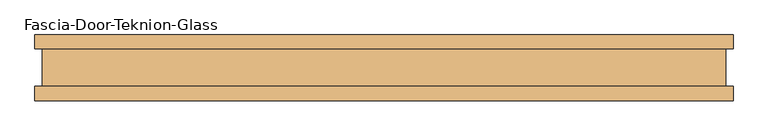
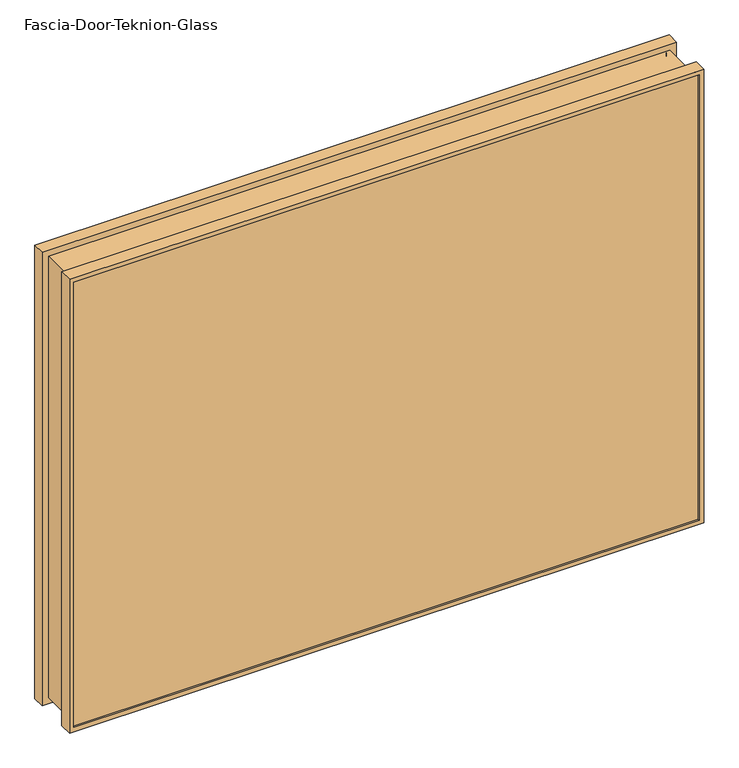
"""IFC4 building model written with IfcOpenShell, lengths in millimetres: door geometry, Fascia-Door-Teknion-Glass : FPGD."""

from ifc_helpers import new_model, si_unit, frame, origin, place, context, project, spatial, polyline, ellipse_curve, outline, extrude, source, transform, mapped, element, save
from ifc_brep_helpers import plane_surface, cylinder_surface, advanced_brep


def fascia_door_teknion_glass_85182ea5(model_context):
    return source(origin(), model_context, "Body", "SolidModel", [
        advanced_brep(
        [(530.2351562, -50.0558594, 804.545), (530.2351562, -50.0558594, 3.175), (530.2351562, -28.2698798, 3.175), (530.2351562, -28.2698798, 804.545), (522.7999484, -47.1322551, 797.1097922), (522.7999484, -47.1322551, 10.6102078), (522.7999484, -50.0558594, 10.6102078), (522.7999484, -50.0558594, 797.1097922), (528.0826299, -41.1791301, 802.3924737), (528.0826299, -41.1791301, 5.3275263), (528.0826299, -47.1322551, 5.3275263), (528.0826299, -47.1322551, 802.3924737), (522.2777407, 40.9277344, 796.5875845), (522.2777407, 40.9277344, 11.1324155), (522.2777407, -41.1791301, 11.1324155), (522.2777407, -41.1791301, 796.5875845), (528.0826299, 46.8808594, 802.3924737), (528.0826299, 46.8808594, 5.3275263), (528.0826299, 40.9277344, 5.3275263), (528.0826299, 40.9277344, 802.3924737), (522.7999484, 50.0558594, 797.1097922), (522.7999484, 50.0558594, 10.6102078), (522.7999484, 46.8808594, 10.6102078), (522.7999484, 46.8808594, 797.1097922), (530.2351562, 28.8801202, 804.545), (530.2351562, 28.8801202, 3.175), (530.2351562, 50.0558594, 3.175), (530.2351562, 50.0558594, 804.545), (519.3833148, -28.2698798, 793.6931586), (519.3833148, -28.2698798, 14.0268414), (519.3833148, 28.8801202, 14.0268414), (519.3833148, 28.8801202, 793.6931586), (-530.2351562, -50.0558594, 3.175), (-530.2351562, -28.2698798, 3.175), (-522.7999484, -47.1322551, 10.6102078), (-522.7999484, -50.0558594, 10.6102078), (-528.0826299, -41.1791301, 5.3275263), (-528.0826299, -47.1322551, 5.3275263), (-522.2777407, 40.9277344, 11.1324155), (-522.2777407, -41.1791301, 11.1324155), (-528.0826299, 46.8808594, 5.3275263), (-528.0826299, 40.9277344, 5.3275263), (-522.7999484, 50.0558594, 10.6102078), (-522.7999484, 46.8808594, 10.6102078), (-530.2351562, 28.8801202, 3.175), (-530.2351562, 50.0558594, 3.175), (-519.3833148, -28.2698798, 14.0268414), (-519.3833148, 28.8801202, 14.0268414), (-530.2351562, -50.0558594, 804.545), (-530.2351562, -28.2698798, 804.545), (-522.7999484, -47.1322551, 797.1097922), (-522.7999484, -50.0558594, 797.1097922), (-528.0826299, -41.1791301, 802.3924737), (-528.0826299, -47.1322551, 802.3924737), (-522.2777407, 40.9277344, 796.5875845), (-522.2777407, -41.1791301, 796.5875845), (-528.0826299, 46.8808594, 802.3924737), (-528.0826299, 40.9277344, 802.3924737), (-522.7999484, 50.0558594, 797.1097922), (-522.7999484, 46.8808594, 797.1097922), (-530.2351562, 28.8801202, 804.545), (-530.2351562, 50.0558594, 804.545), (-519.3833148, -28.2698798, 793.6931586), (-519.3833148, 28.8801202, 793.6931586)],
        [
            (0, 1),
            (1, 2),
            (2, 3),
            (3, 0),
            (4, 5),
            (5, 6),
            (6, 7),
            (7, 4),
            (8, 9),
            (9, 10),
            (10, 11),
            (11, 8),
            (12, 13),
            (13, 14, ellipse_curve(frame((561.663583, -0.1256979, -28.2534268), z_axis=(0.7071067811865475, 0.0, 0.7071067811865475), x_axis=(-0.7071067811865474, 0.0, 0.7071067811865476)), 80.4565581, 56.8913778)),
            (14, 15),
            (15, 12, ellipse_curve(frame((561.663583, -0.1256979, 835.9734268), z_axis=(0.7071067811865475, 0.0, -0.7071067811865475), x_axis=(0.7071067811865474, 0.0, 0.7071067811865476)), 80.4565581, 56.8913778)),
            (16, 17),
            (17, 18),
            (18, 19),
            (19, 16),
            (20, 21),
            (21, 22),
            (22, 23),
            (23, 20),
            (24, 25),
            (25, 26),
            (26, 27),
            (27, 24),
            (28, 29),
            (29, 30),
            (30, 31),
            (31, 28),
            (1, 32),
            (32, 33),
            (33, 2),
            (5, 34),
            (34, 35),
            (35, 6),
            (9, 36),
            (36, 37),
            (37, 10),
            (13, 38),
            (38, 39, ellipse_curve(frame((-561.663583, -0.1256979, -28.2534268), z_axis=(0.7071067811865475, 0.0, -0.7071067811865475), x_axis=(0.7071067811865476, 0.0, 0.7071067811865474)), 80.4565581, 56.8913778)),
            (39, 14),
            (17, 40),
            (40, 41),
            (41, 18),
            (21, 42),
            (42, 43),
            (43, 22),
            (25, 44),
            (44, 45),
            (45, 26),
            (29, 46),
            (46, 47),
            (47, 30),
            (32, 48),
            (48, 49),
            (49, 33),
            (34, 50),
            (50, 51),
            (51, 35),
            (36, 52),
            (52, 53),
            (53, 37),
            (38, 54),
            (54, 55, ellipse_curve(frame((-561.663583, -0.1256979, 835.9734268), z_axis=(-0.7071067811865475, 0.0, -0.7071067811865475), x_axis=(0.7071067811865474, 0.0, -0.7071067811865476)), 80.4565581, 56.8913778)),
            (55, 39),
            (40, 56),
            (56, 57),
            (57, 41),
            (42, 58),
            (58, 59),
            (59, 43),
            (44, 60),
            (60, 61),
            (61, 45),
            (46, 62),
            (62, 63),
            (63, 47),
            (48, 0),
            (3, 49),
            (51, 7),
            (50, 4),
            (53, 11),
            (52, 8),
            (55, 15),
            (54, 12),
            (57, 19),
            (56, 16),
            (59, 23),
            (58, 20),
            (61, 27),
            (60, 24),
            (63, 31),
            (62, 28),
        ],
        [
            plane_surface(frame((530.2351562, -28.2698798, 804.545), z_axis=(1.0, 0.0, 0.0), x_axis=(0.0, 0.0, -1.0))),
            plane_surface(frame((522.7999484, -50.0558594, 797.1097922), z_axis=(-1.0, 0.0, 0.0), x_axis=(0.0, 0.0, -1.0))),
            plane_surface(frame((528.0826299, -47.1322551, 802.3924737), z_axis=(-1.0, 0.0, 0.0), x_axis=(0.0, 0.0, -1.0))),
            cylinder_surface(frame((561.663583, -0.1256979, 804.545), z_axis=(0.0, 0.0, 1.0), x_axis=(1.0, 0.0, 0.0)), 56.8913778),
            plane_surface(frame((528.0826299, 40.9277344, 802.3924737), z_axis=(-1.0, 0.0, 0.0), x_axis=(0.0, 0.0, -1.0))),
            plane_surface(frame((522.7999484, 46.8808594, 797.1097922), z_axis=(-1.0, 0.0, 0.0), x_axis=(0.0, 0.0, -1.0))),
            plane_surface(frame((530.2351562, 50.0558594, 804.545), z_axis=(1.0, 0.0, 0.0), x_axis=(0.0, 0.0, -1.0))),
            plane_surface(frame((519.3833148, 28.8801202, 793.6931586), z_axis=(1.0, 0.0, 0.0), x_axis=(0.0, 0.0, -1.0))),
            plane_surface(frame((530.2351562, -28.2698798, 3.175), z_axis=(0.0, 0.0, -1.0), x_axis=(-1.0, 0.0, 0.0))),
            plane_surface(frame((522.7999484, -50.0558594, 10.6102078), z_axis=(0.0, 0.0, 1.0), x_axis=(-1.0, 0.0, 0.0))),
            plane_surface(frame((528.0826299, -47.1322551, 5.3275263), z_axis=(0.0, 0.0, 1.0), x_axis=(-1.0, 0.0, 0.0))),
            cylinder_surface(frame((530.2351562, -0.1256979, -28.2534268), z_axis=(1.0, 0.0, 0.0), x_axis=(0.0, 0.0, -1.0)), 56.8913778),
            plane_surface(frame((528.0826299, 40.9277344, 5.3275263), z_axis=(0.0, 0.0, 1.0), x_axis=(-1.0, 0.0, 0.0))),
            plane_surface(frame((522.7999484, 46.8808594, 10.6102078), z_axis=(0.0, 0.0, 1.0), x_axis=(-1.0, 0.0, 0.0))),
            plane_surface(frame((530.2351562, 50.0558594, 3.175), z_axis=(0.0, 0.0, -1.0), x_axis=(-1.0, 0.0, 0.0))),
            plane_surface(frame((519.3833148, 28.8801202, 14.0268414), z_axis=(0.0, 0.0, -1.0), x_axis=(-1.0, 0.0, 0.0))),
            plane_surface(frame((-530.2351562, -28.2698798, 3.175), z_axis=(-1.0, 0.0, 0.0), x_axis=(0.0, 0.0, 1.0))),
            plane_surface(frame((-522.7999484, -50.0558594, 10.6102078), z_axis=(1.0, 0.0, 0.0), x_axis=(0.0, 0.0, 1.0))),
            plane_surface(frame((-528.0826299, -47.1322551, 5.3275263), z_axis=(1.0, 0.0, 0.0), x_axis=(0.0, 0.0, 1.0))),
            cylinder_surface(frame((-561.663583, -0.1256979, 3.175), z_axis=(0.0, 0.0, -1.0), x_axis=(-1.0, 0.0, 0.0)), 56.8913778),
            plane_surface(frame((-528.0826299, 40.9277344, 5.3275263), z_axis=(1.0, 0.0, 0.0), x_axis=(0.0, 0.0, 1.0))),
            plane_surface(frame((-522.7999484, 46.8808594, 10.6102078), z_axis=(1.0, 0.0, 0.0), x_axis=(0.0, 0.0, 1.0))),
            plane_surface(frame((-530.2351562, 50.0558594, 3.175), z_axis=(-1.0, 0.0, 0.0), x_axis=(0.0, 0.0, 1.0))),
            plane_surface(frame((-519.3833148, 28.8801202, 14.0268414), z_axis=(-1.0, 0.0, 0.0), x_axis=(0.0, 0.0, 1.0))),
            plane_surface(frame((-530.2351562, -28.2698798, 804.545), z_axis=(0.0, 0.0, 1.0), x_axis=(1.0, 0.0, 0.0))),
            plane_surface(frame((-530.2351562, -50.0558594, 804.545), z_axis=(0.0, -1.0, 0.0), x_axis=(1.0, 0.0, 0.0))),
            plane_surface(frame((-522.7999484, -50.0558594, 797.1097922), z_axis=(0.0, 0.0, -1.0), x_axis=(1.0, 0.0, 0.0))),
            plane_surface(frame((-522.7999484, -47.1322551, 797.1097922), z_axis=(0.0, 1.0, 0.0), x_axis=(1.0, 0.0, 0.0))),
            plane_surface(frame((-528.0826299, -47.1322551, 802.3924737), z_axis=(0.0, 0.0, -1.0), x_axis=(1.0, 0.0, 0.0))),
            plane_surface(frame((-528.0826299, -41.1791301, 802.3924737), z_axis=(0.0, -1.0, 0.0), x_axis=(1.0, 0.0, 0.0))),
            cylinder_surface(frame((-530.2351562, -0.1256979, 835.9734268), z_axis=(-1.0, 0.0, 0.0), x_axis=(0.0, 0.0, 1.0)), 56.8913778),
            plane_surface(frame((-522.2777407, 40.9277344, 796.5875845), z_axis=(0.0, 1.0, 0.0), x_axis=(1.0, 0.0, 0.0))),
            plane_surface(frame((-528.0826299, 40.9277344, 802.3924737), z_axis=(0.0, 0.0, -1.0), x_axis=(1.0, 0.0, 0.0))),
            plane_surface(frame((-528.0826299, 46.8808594, 802.3924737), z_axis=(0.0, -1.0, 0.0), x_axis=(1.0, 0.0, 0.0))),
            plane_surface(frame((-522.7999484, 46.8808594, 797.1097922), z_axis=(0.0, 0.0, -1.0), x_axis=(1.0, 0.0, 0.0))),
            plane_surface(frame((-522.7999484, 50.0558594, 797.1097922), z_axis=(0.0, 1.0, 0.0), x_axis=(1.0, 0.0, 0.0))),
            plane_surface(frame((-530.2351562, 50.0558594, 804.545), z_axis=(0.0, 0.0, 1.0), x_axis=(1.0, 0.0, 0.0))),
            plane_surface(frame((-530.2351562, 28.8801202, 804.545), z_axis=(0.0, -1.0, 0.0), x_axis=(1.0, 0.0, 0.0))),
            plane_surface(frame((-519.3833148, 28.8801202, 793.6931586), z_axis=(0.0, 0.0, 1.0), x_axis=(1.0, 0.0, 0.0))),
            plane_surface(frame((-519.3833148, -28.2698798, 793.6931586), z_axis=(0.0, 1.0, 0.0), x_axis=(1.0, 0.0, 0.0))),
        ],
        [
            (0, [[1, 2, 3, 4]]),
            (1, [[5, 6, 7, 8]]),
            (2, [[9, 10, 11, 12]]),
            (3, [[13, 14, 15, 16]]),
            (4, [[17, 18, 19, 20]]),
            (5, [[21, 22, 23, 24]]),
            (6, [[25, 26, 27, 28]]),
            (7, [[29, 30, 31, 32]]),
            (8, [[33, 34, 35, -2]]),
            (9, [[36, 37, 38, -6]]),
            (10, [[39, 40, 41, -10]]),
            (11, [[42, 43, 44, -14]]),
            (12, [[45, 46, 47, -18]]),
            (13, [[48, 49, 50, -22]]),
            (14, [[51, 52, 53, -26]]),
            (15, [[54, 55, 56, -30]]),
            (16, [[57, 58, 59, -34]]),
            (17, [[60, 61, 62, -37]]),
            (18, [[63, 64, 65, -40]]),
            (19, [[66, 67, 68, -43]]),
            (20, [[69, 70, 71, -46]]),
            (21, [[72, 73, 74, -49]]),
            (22, [[75, 76, 77, -52]]),
            (23, [[78, 79, 80, -55]]),
            (24, [[81, -4, 82, -58]]),
            (25, [[-1, -81, -57, -33], [-7, -38, -62, 83]]),
            (26, [[84, -8, -83, -61]]),
            (27, [[-11, -41, -65, 85], [-5, -84, -60, -36]]),
            (28, [[86, -12, -85, -64]]),
            (29, [[-9, -86, -63, -39], [-15, -44, -68, 87]]),
            (30, [[88, -16, -87, -67]]),
            (31, [[-19, -47, -71, 89], [-13, -88, -66, -42]]),
            (32, [[90, -20, -89, -70]]),
            (33, [[-17, -90, -69, -45], [-23, -50, -74, 91]]),
            (34, [[92, -24, -91, -73]]),
            (35, [[-27, -53, -77, 93], [-21, -92, -72, -48]]),
            (36, [[94, -28, -93, -76]]),
            (37, [[-25, -94, -75, -51], [-31, -56, -80, 95]]),
            (38, [[96, -32, -95, -79]]),
            (39, [[-3, -35, -59, -82], [-29, -96, -78, -54]]),
        ],
    ),
        extrude(outline(polyline([(528.0826299, 40.9277344), (-528.0826299, 40.9277344), (-528.0826299, 46.8808594), (528.0826299, 46.8808594), (528.0826299, 40.9277344)])), frame((0.0, 0.0, 5.3275263), z_axis=(0.0, 0.0, 1.0), x_axis=(1.0, 0.0, 0.0)), (0.0, 0.0, 1.0), 796.570928),
        extrude(outline(polyline([(528.0826299, -41.1791301), (528.0826299, -47.1322551), (-528.0826299, -47.1322551), (-528.0826299, -41.1791301), (528.0826299, -41.1791301)])), frame((0.0, 0.0, 5.3275263), z_axis=(0.0, 0.0, 1.0), x_axis=(1.0, 0.0, 0.0)), (0.0, 0.0, 1.0), 796.570928),
    ])


if __name__ == "__main__":
    model = new_model("IFC4")
    model_context = context("Model", 3, world=origin())
    ifc_project = project(units=[si_unit("LENGTHUNIT", "METRE", prefix="MILLI")], contexts=[model_context])
    site = spatial("IfcSite", under=ifc_project)
    building = spatial("IfcBuilding", under=site)
    placement = place(None, origin())
    fascia_door_teknion_glass_shape = fascia_door_teknion_glass_85182ea5(model_context)
    element("IfcDoor", 1, ObjectType="Fascia-Door-Teknion-Glass : FPGD", at=placement, inside=building, context=model_context, shape_type="MappedRepresentation", body=[
        mapped(fascia_door_teknion_glass_shape, transform((0.0, 0.0, 0.0), x_axis=(1.0, 0.0, 0.0), y_axis=(0.0, 1.0, 0.0), z_axis=(0.0, 0.0, 1.0))),
    ])
    save(model, "model.ifc")
